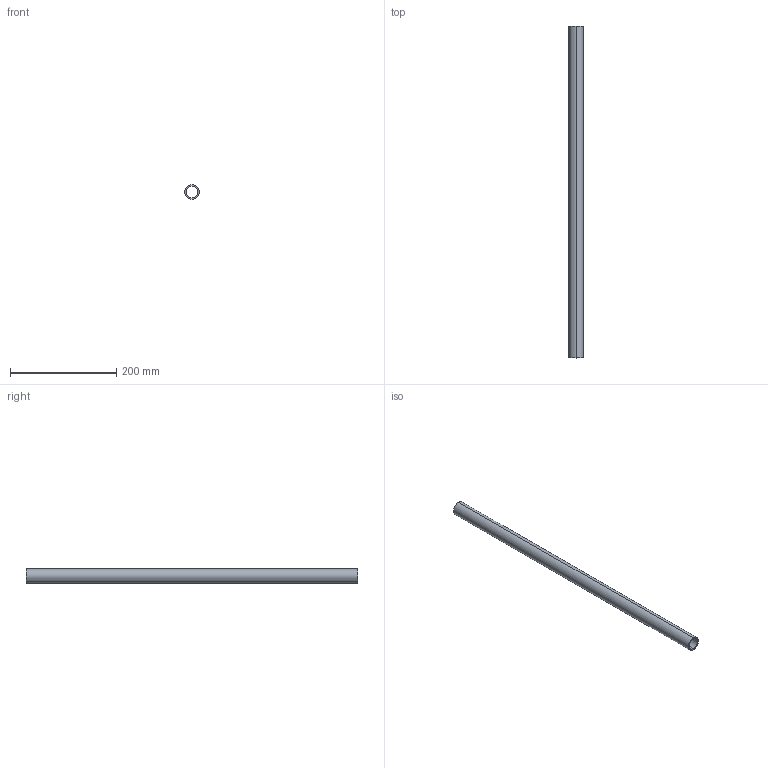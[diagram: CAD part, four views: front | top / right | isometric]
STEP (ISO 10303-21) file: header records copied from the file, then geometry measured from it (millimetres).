
FILE_DESCRIPTION (( 'STEP AP214' ), '1' );
FILE_NAME ('CCJ029-REP.322 - LISSE PLATEFORME INFERIEURE B6-ESCALIER.STEP', '2024-01-31T10:05:20', ( '' ), ( '' ), 'SwSTEP 2.0', 'SolidWorks 2021', '' );
FILE_SCHEMA (( 'AUTOMOTIVE_DESIGN' ));
Length unit declared in the file: millimetre
Products named in the file (1): CCJ029-REP.322 - LISSE PLATEFORME INFERIEURE B6-ESCALIER
Bounding box: 26.9 x 625 x 26.9 mm (x, y, z)
Volume: 111094.6 mm3; surface area: 96959.5 mm2
Topology: 1 solids, 1 shells, 6 faces, 12 edges, 8 vertices
Faces by surface type: cylinder 4, plane 2
Entity records: 202 total; most frequent: DIRECTION 34, CARTESIAN_POINT 27, ORIENTED_EDGE 24, AXIS2_PLACEMENT_3D 15, EDGE_CURVE 12, VERTEX_POINT 8, EDGE_LOOP 8, CIRCLE 8
